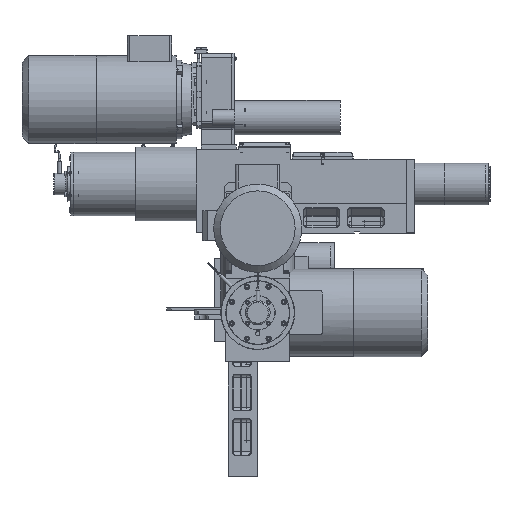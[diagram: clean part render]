
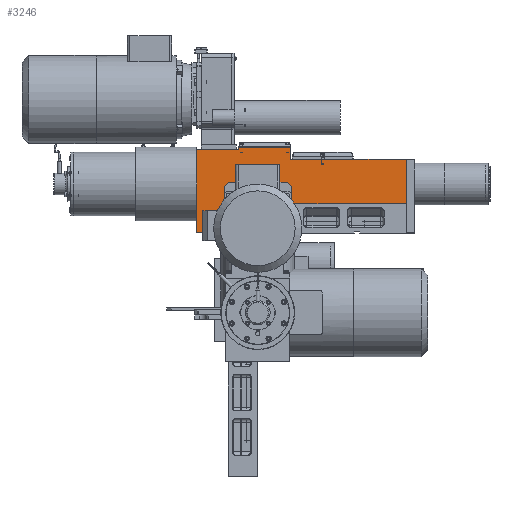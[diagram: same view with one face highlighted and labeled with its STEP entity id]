
A CAD part, front view. The second image highlights one B-rep face of the part: STEP entity #3246.
In plain terms, the highlighted planar face has unit normal (0, -1, 0).
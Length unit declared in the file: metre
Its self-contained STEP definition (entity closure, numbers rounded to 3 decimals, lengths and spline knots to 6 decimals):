
#3246 = ADVANCED_FACE( '', ( #5004 ), #5005, .T. );
#5004 = FACE_OUTER_BOUND( '', #9553, .T. );
#5005 = PLANE( '', #9554 );
#9553 = EDGE_LOOP( '', ( #15965, #15966, #15967, #15968, #15969, #15970, #15971, #15972, #15973, #15974 ) );
#9554 = AXIS2_PLACEMENT_3D( '', #15975, #15976, #15977 );
#15965 = ORIENTED_EDGE( '', *, *, #21006, .T. );
#15966 = ORIENTED_EDGE( '', *, *, #21007, .T. );
#15967 = ORIENTED_EDGE( '', *, *, #21008, .F. );
#15968 = ORIENTED_EDGE( '', *, *, #21009, .T. );
#15969 = ORIENTED_EDGE( '', *, *, #21010, .T. );
#15970 = ORIENTED_EDGE( '', *, *, #21011, .T. );
#15971 = ORIENTED_EDGE( '', *, *, #21012, .T. );
#15972 = ORIENTED_EDGE( '', *, *, #21013, .T. );
#15973 = ORIENTED_EDGE( '', *, *, #21014, .T. );
#15974 = ORIENTED_EDGE( '', *, *, #21015, .T. );
#15975 = CARTESIAN_POINT( '', ( 0.337, -0.003889, 0. ) );
#15976 = DIRECTION( '', ( 0., -1., 0. ) );
#15977 = DIRECTION( '', ( 1., 0., 0. ) );
#21006 = EDGE_CURVE( '', #23903, #23904, #23905, .T. );
#21007 = EDGE_CURVE( '', #23904, #23906, #23907, .T. );
#21008 = EDGE_CURVE( '', #23908, #23906, #23909, .T. );
#21009 = EDGE_CURVE( '', #23908, #23910, #23911, .T. );
#21010 = EDGE_CURVE( '', #23910, #23912, #23913, .T. );
#21011 = EDGE_CURVE( '', #23912, #23914, #23915, .T. );
#21012 = EDGE_CURVE( '', #23914, #23916, #23917, .T. );
#21013 = EDGE_CURVE( '', #23916, #23918, #23919, .T. );
#21014 = EDGE_CURVE( '', #23918, #23920, #23921, .T. );
#21015 = EDGE_CURVE( '', #23920, #23903, #23922, .T. );
#23903 = VERTEX_POINT( '', #29711 );
#23904 = VERTEX_POINT( '', #29712 );
#23905 = LINE( '', #29713, #29714 );
#23906 = VERTEX_POINT( '', #29715 );
#23907 = LINE( '', #29716, #29717 );
#23908 = VERTEX_POINT( '', #29718 );
#23909 = LINE( '', #29719, #29720 );
#23910 = VERTEX_POINT( '', #29721 );
#23911 = LINE( '', #29722, #29723 );
#23912 = VERTEX_POINT( '', #29724 );
#23913 = LINE( '', #29725, #29726 );
#23914 = VERTEX_POINT( '', #29727 );
#23915 = LINE( '', #29728, #29729 );
#23916 = VERTEX_POINT( '', #29730 );
#23917 = LINE( '', #29731, #29732 );
#23918 = VERTEX_POINT( '', #29733 );
#23919 = LINE( '', #29734, #29735 );
#23920 = VERTEX_POINT( '', #29736 );
#23921 = LINE( '', #29737, #29738 );
#23922 = LINE( '', #29739, #29740 );
#29711 = CARTESIAN_POINT( '', ( -0.003, -0.003889, 0.11 ) );
#29712 = CARTESIAN_POINT( '', ( -0.088, -0.003889, 0.11 ) );
#29713 = CARTESIAN_POINT( '', ( 0.14575, -0.003889, 0.11 ) );
#29714 = VECTOR( '', #34506, 1. );
#29715 = CARTESIAN_POINT( '', ( -0.088, -0.003889, -0.059 ) );
#29716 = CARTESIAN_POINT( '', ( -0.088, -0.003889, -0.059 ) );
#29717 = VECTOR( '', #34507, 1. );
#29718 = CARTESIAN_POINT( '', ( -0.005, -0.003889, -0.059 ) );
#29719 = CARTESIAN_POINT( '', ( -0.005, -0.003889, -0.059 ) );
#29720 = VECTOR( '', #34508, 1. );
#29721 = CARTESIAN_POINT( '', ( -0.005, -0.003889, 0. ) );
#29722 = CARTESIAN_POINT( '', ( -0.005, -0.003889, -0.059 ) );
#29723 = VECTOR( '', #34509, 1. );
#29724 = CARTESIAN_POINT( '', ( 0.337, -0.003889, 0. ) );
#29725 = CARTESIAN_POINT( '', ( -0.005, -0.003889, 0. ) );
#29726 = VECTOR( '', #34510, 1. );
#29727 = CARTESIAN_POINT( '', ( 0.337, -0.003889, 0.09 ) );
#29728 = CARTESIAN_POINT( '', ( 0.337, -0.003889, 0. ) );
#29729 = VECTOR( '', #34511, 1. );
#29730 = CARTESIAN_POINT( '', ( 0.102, -0.003889, 0.09 ) );
#29731 = CARTESIAN_POINT( '', ( -0.005, -0.003889, 0.09 ) );
#29732 = VECTOR( '', #34512, 1. );
#29733 = CARTESIAN_POINT( '', ( 0.102, -0.003889, 0.115 ) );
#29734 = CARTESIAN_POINT( '', ( 0.102, -0.003889, 0.09 ) );
#29735 = VECTOR( '', #34513, 1. );
#29736 = CARTESIAN_POINT( '', ( -0.003, -0.003889, 0.115 ) );
#29737 = CARTESIAN_POINT( '', ( -0.005, -0.003889, 0.115 ) );
#29738 = VECTOR( '', #34514, 1. );
#29739 = CARTESIAN_POINT( '', ( -0.003, -0.003889, 0.058735 ) );
#29740 = VECTOR( '', #34515, 1. );
#34506 = DIRECTION( '', ( -1., 0., 0. ) );
#34507 = DIRECTION( '', ( 0., 0., -1. ) );
#34508 = DIRECTION( '', ( -1., 0., 0. ) );
#34509 = DIRECTION( '', ( 0., 0., 1. ) );
#34510 = DIRECTION( '', ( 1., 0., 0. ) );
#34511 = DIRECTION( '', ( 0., 0., 1. ) );
#34512 = DIRECTION( '', ( -1., 0., 0. ) );
#34513 = DIRECTION( '', ( 0., 0., 1. ) );
#34514 = DIRECTION( '', ( -1., 0., 0. ) );
#34515 = DIRECTION( '', ( 0., 0., -1. ) );
